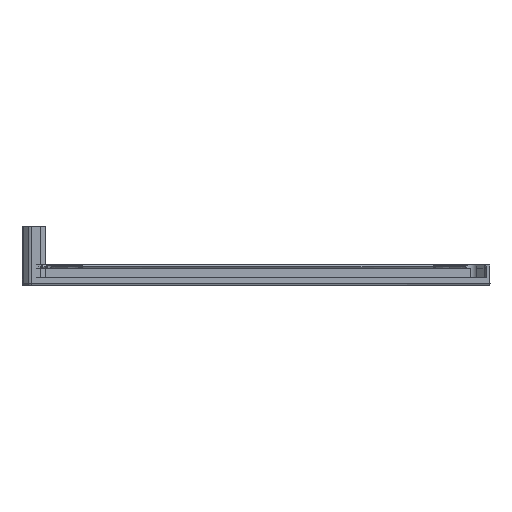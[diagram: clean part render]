
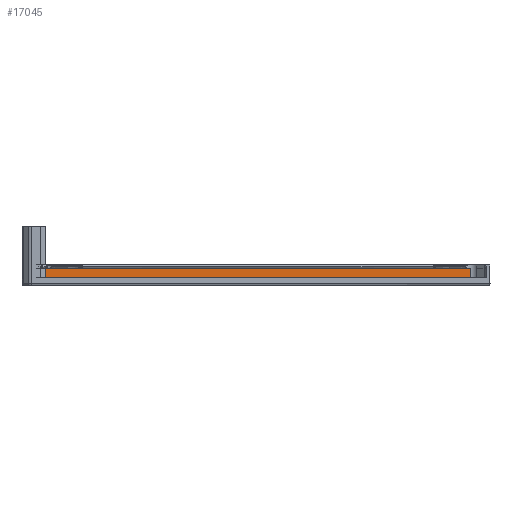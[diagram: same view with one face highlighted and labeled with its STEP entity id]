
A CAD part, left-side view. The second image highlights one B-rep face of the part: STEP entity #17045.
In plain terms, the highlighted planar face has unit normal (-1, 0, 0).
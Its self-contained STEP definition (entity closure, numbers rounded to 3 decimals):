
#805=DIRECTION('',(0.,-1.,0.));
#806=VECTOR('',#805,106.509);
#807=CARTESIAN_POINT('',(292.896,114.707,-4.02));
#808=LINE('',#807,#806);
#4634=DIRECTION('',(0.,-1.,0.));
#4635=VECTOR('',#4634,106.509);
#4636=CARTESIAN_POINT('',(292.896,114.707,-1.62));
#4637=LINE('',#4636,#4635);
#4641=DIRECTION('',(0.,0.,1.));
#4642=VECTOR('',#4641,2.4);
#4643=CARTESIAN_POINT('',(292.882,8.198,-4.02));
#4644=LINE('',#4643,#4642);
#4648=DIRECTION('',(0.,0.,1.));
#4649=VECTOR('',#4648,2.4);
#4650=CARTESIAN_POINT('',(292.896,114.707,-4.02));
#4651=LINE('',#4650,#4649);
#4703=CARTESIAN_POINT('',(292.882,8.198,-1.62));
#13832=CARTESIAN_POINT('',(292.882,8.198,
-4.02));
#13834=VERTEX_POINT('',#13832);
#13835=CARTESIAN_POINT('',(292.896,114.707,
-4.02));
#13837=VERTEX_POINT('',#13835);
#13881=CARTESIAN_POINT('',(292.896,114.707,
-1.62));
#13883=VERTEX_POINT('',#13881);
#13900=VERTEX_POINT('',#4703);
#17032=CARTESIAN_POINT('',(292.896,115.535,
-4.02));
#17033=DIRECTION('',(-1.,0.,0.));
#17034=DIRECTION('',(0.,-1.,0.));
#17035=AXIS2_PLACEMENT_3D('',#17032,#17033,#17034);
#17036=PLANE('',#17035);
#17038=ORIENTED_EDGE('',*,*,#17037,.T.);
#17039=ORIENTED_EDGE('',*,*,#17017,.F.);
#17040=ORIENTED_EDGE('',*,*,#15790,.F.);
#17042=ORIENTED_EDGE('',*,*,#17041,.T.);
#17043=EDGE_LOOP('',(#17038,#17039,#17040,#17042));
#17044=FACE_OUTER_BOUND('',#17043,.F.);
#15790=EDGE_CURVE('',#13837,#13834,#808,.T.);
#17017=EDGE_CURVE('',#13834,#13900,#4644,.T.);
#17037=EDGE_CURVE('',#13883,#13900,#4637,.T.);
#17041=EDGE_CURVE('',#13837,#13883,#4651,.T.);
#17045=ADVANCED_FACE('',(#17044),#17036,.T.);
